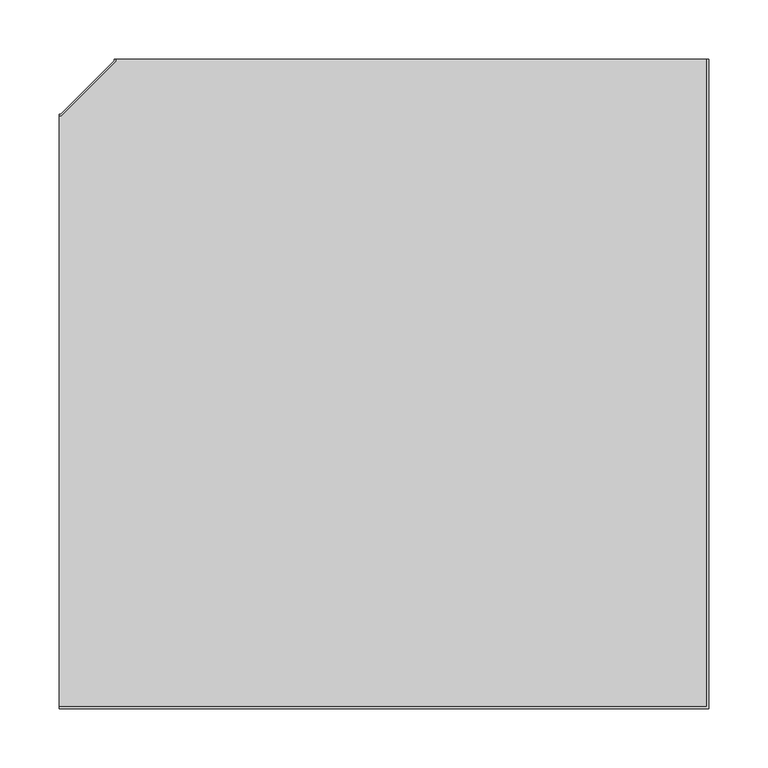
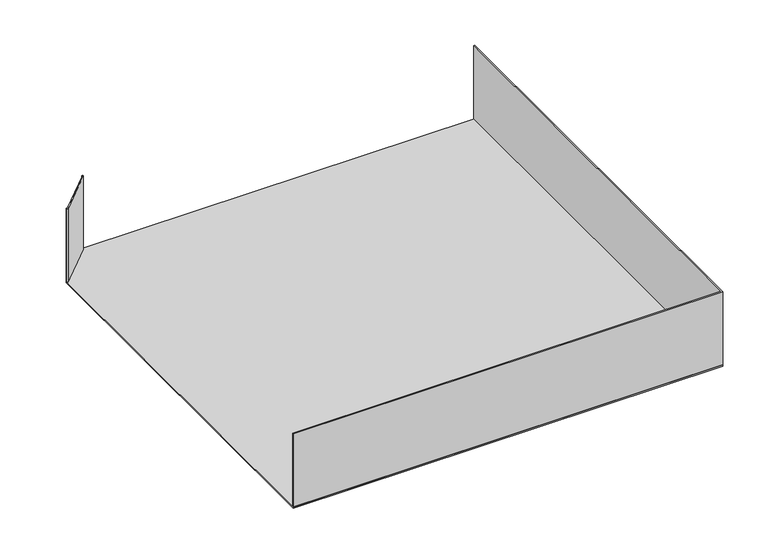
"""IFC4 building model written with IfcOpenShell, lengths in millimetres: cable carrier fitting geometry, BAKS_Horizontal bend : KKP/KKMP_H100."""

from ifc_helpers import new_model, si_unit, frame, origin, place, context, project, spatial, polyline, outline, extrude, faceted_brep, source, transform, mapped, element, save


def cable_carrier_fitting_dcc5a5fb(model_context):
    return source(origin(), model_context, "Body", "SolidModel", [
        faceted_brep([(-296.0, 248.5, 50.0), (-296.0, 250.0, 50.0), (-296.0, 250.0, -50.0), (-296.0, -250.0, -50.0), (-296.0, -250.0, -48.5), (-296.0, 248.5, -48.5), (-294.3786797, 248.5, 50.0), (-248.5, 294.3786797, 50.0), (-248.5, 296.0, 50.0), (-250.0, 296.0, 50.0), (-250.0, 295.0, 50.0), (-295.0, 250.0, 50.0), (-295.0, 250.0, -48.5), (-295.0, 250.0, -50.0), (-250.0, 295.0, -50.0), (-250.0, 296.0, -50.0), (250.0, 296.0, -50.0), (250.0, -250.0, -50.0), (-294.3786797, 248.5, -48.5), (-250.0, 295.0, -48.5), (-248.5, 294.3786797, -48.5), (-248.5, 296.0, -48.5), (250.0, 296.0, -48.5), (250.0, -250.0, -48.5)], [[[0, 1, 2, 3, 4, 5]], [[1, 0, 6, 7, 8, 9, 10, 11]], [[2, 1, 11, 12, 13]], [[3, 2, 13, 14, 15, 16, 17]], [[6, 0, 5, 18]], [[11, 10, 19, 14, 13, 12]], [[7, 6, 18, 20]], [[9, 8, 21, 22, 16, 15]], [[10, 9, 15, 14, 19]], [[8, 7, 20, 21]], [[4, 23, 22, 21, 20, 18, 5]], [[23, 4, 3, 17]], [[22, 23, 17, 16]]]),
        extrude(outline(polyline([(-296.0, -250.0), (-296.0, -248.5), (248.5, -248.5), (248.5, 296.0), (250.0, 296.0), (250.0, -250.0), (-296.0, -250.0)])), frame((0.0, 0.0, -50.0), z_axis=(0.0, 0.0, 1.0), x_axis=(1.0, 0.0, 0.0)), (0.0, 0.0, 1.0), 100.0),
    ])


if __name__ == "__main__":
    model = new_model("IFC4")
    model_context = context("Model", 3, world=origin())
    ifc_project = project(units=[si_unit("LENGTHUNIT", "METRE", prefix="MILLI")], contexts=[model_context])
    site = spatial("IfcSite", under=ifc_project)
    building = spatial("IfcBuilding", under=site)
    placement = place(None, origin())
    cable_carrier_fitting_shape = cable_carrier_fitting_dcc5a5fb(model_context)
    element("IfcCableCarrierFitting", 1, ObjectType="BAKS_Horizontal bend : KKP/KKMP_H100", at=placement, inside=building, context=model_context, shape_type="MappedRepresentation", body=[
        mapped(cable_carrier_fitting_shape, transform((0.0, 0.0, 0.0), x_axis=(1.0, 0.0, 0.0), y_axis=(0.0, 1.0, 0.0), z_axis=(0.0, 0.0, 1.0))),
    ])
    save(model, "model.ifc")
